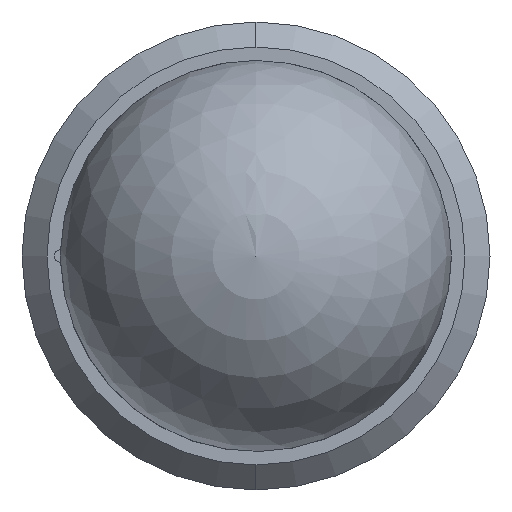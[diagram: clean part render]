
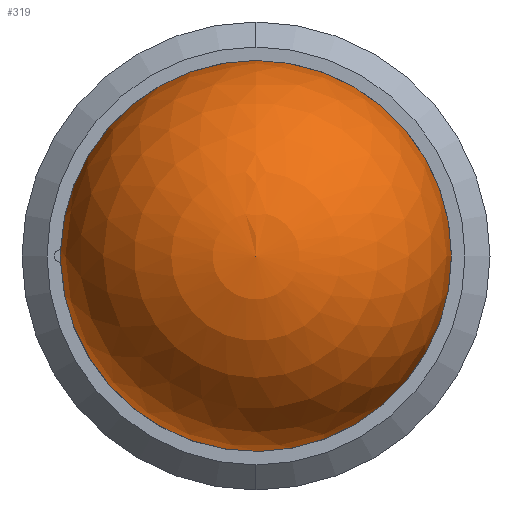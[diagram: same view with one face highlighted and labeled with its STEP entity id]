
A CAD part, left-side view. The second image highlights one B-rep face of the part: STEP entity #319.
In plain terms, the highlighted spherical face has radius 1.984 mm.
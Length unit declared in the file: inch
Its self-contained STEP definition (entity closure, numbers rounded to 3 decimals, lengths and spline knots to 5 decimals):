
#1 = CARTESIAN_POINT ( 'NONE',  ( 0., 0., 0. ) ) ;
#57 = AXIS2_PLACEMENT_3D ( 'NONE', #1, #491, #73 ) ;
#62 = AXIS2_PLACEMENT_3D ( 'NONE', #283, #761, #352 ) ;
#71 = AXIS2_PLACEMENT_3D ( 'NONE', #562, #144, #634 ) ;
#73 = DIRECTION ( 'NONE',  ( 0., 0., -1. ) ) ;
#116 = VERTEX_POINT ( 'NONE', #261 ) ;
#141 = VERTEX_POINT ( 'NONE', #431 ) ;
#144 = DIRECTION ( 'NONE',  ( -1., 0., 0. ) ) ;
#214 = CIRCLE ( 'NONE', #57, 0.07813 ) ;
#224 = AXIS2_PLACEMENT_3D ( 'NONE', #629, #668, #259 ) ;
#232 = CIRCLE ( 'NONE', #71, 0.07813 ) ;
#246 = VERTEX_POINT ( 'NONE', #541 ) ;
#259 = DIRECTION ( 'NONE',  ( 0., 0., 1. ) ) ;
#261 = CARTESIAN_POINT ( 'NONE',  ( 0., 0.07808, 0.0025 ) ) ;
#283 = CARTESIAN_POINT ( 'NONE',  ( 0., 0., 0. ) ) ;
#298 = EDGE_LOOP ( 'NONE', ( #627, #842, #846 ) ) ;
#319 = ADVANCED_FACE ( 'NONE', ( #330 ), #530, .T. ) ;
#330 = FACE_OUTER_BOUND ( 'NONE', #298, .T. ) ;
#352 = DIRECTION ( 'NONE',  ( 0., 0., 1. ) ) ;
#387 = CIRCLE ( 'NONE', #62, 0.07813 ) ;
#431 = CARTESIAN_POINT ( 'NONE',  ( 0., 0.07808, -0.0025 ) ) ;
#491 = DIRECTION ( 'NONE',  ( 1., 0., 0. ) ) ;
#530 = SPHERICAL_SURFACE ( 'NONE', #224, 0.07813 ) ;
#532 = EDGE_CURVE ( 'NONE', #141, #246, #232, .T. ) ;
#535 = EDGE_CURVE ( 'NONE', #116, #141, #387, .T. ) ;
#541 = CARTESIAN_POINT ( 'NONE',  ( 0., -0.07813, 0. ) ) ;
#547 = EDGE_CURVE ( 'NONE', #116, #246, #214, .T. ) ;
#562 = CARTESIAN_POINT ( 'NONE',  ( 0., 0., 0. ) ) ;
#627 = ORIENTED_EDGE ( 'NONE', *, *, #535, .T. ) ;
#629 = CARTESIAN_POINT ( 'NONE',  ( 0., 0., 0. ) ) ;
#634 = DIRECTION ( 'NONE',  ( 0., 0., 1. ) ) ;
#668 = DIRECTION ( 'NONE',  ( -1., 0., 0. ) ) ;
#761 = DIRECTION ( 'NONE',  ( -1., 0., 0. ) ) ;
#842 = ORIENTED_EDGE ( 'NONE', *, *, #532, .T. ) ;
#846 = ORIENTED_EDGE ( 'NONE', *, *, #547, .F. ) ;
